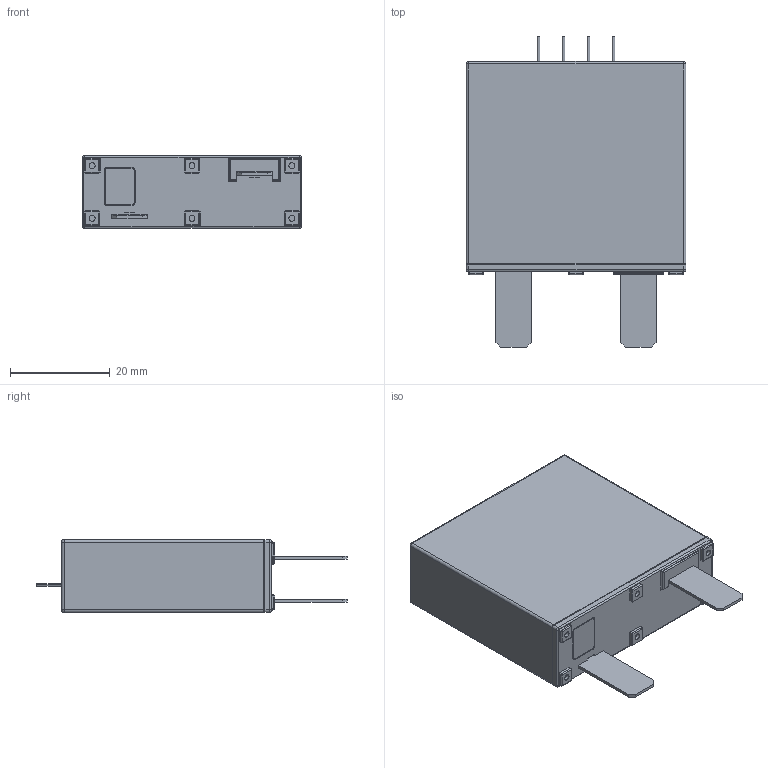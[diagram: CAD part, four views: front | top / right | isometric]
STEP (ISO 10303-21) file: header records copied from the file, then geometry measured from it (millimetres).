
FILE_DESCRIPTION((''),'2;1');
FILE_NAME('TFMOV40K-14-2IT-20200620','2020-06-24T',('set'),(''),'PRO/ENGINEER BY PARAMETRIC TECHNOLOGY CORPORATION, 2012310','PRO/ENGINEER BY PARAMETRIC TECHNOLOGY CORPORATION, 2012310','');
FILE_SCHEMA(('CONFIG_CONTROL_DESIGN','SHAPE_APPEARANCE_LAYERS_GROUPS'));
Length unit declared in the file: millimetre
Products named in the file (1): TFMOV40K-14-2IT-20200620
Bounding box: 44 x 62.2 x 14.6 mm (x, y, z)
Volume: 27101.2 mm3; surface area: 6933.4 mm2
Topology: 1 solids, 2 shells, 270 faces, 612 edges, 365 vertices
Faces by surface type: cylinder 116, plane 111, sphere 30, torus 8, bspline 5
Entity records: 9743 total; most frequent: CARTESIAN_POINT 1531, DIRECTION 1324, ORIENTED_EDGE 1224, PRESENTATION_STYLE_ASSIGNMENT 630, STYLED_ITEM 613, CURVE_STYLE 612, EDGE_CURVE 612, AXIS2_PLACEMENT_3D 475
